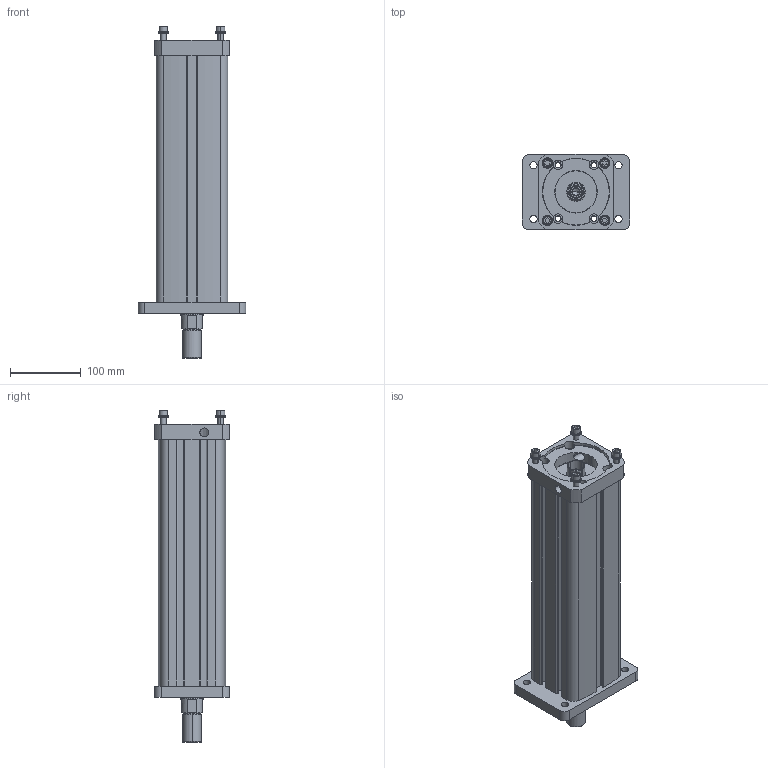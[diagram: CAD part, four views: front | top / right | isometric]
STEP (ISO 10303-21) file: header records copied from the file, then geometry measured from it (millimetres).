
FILE_DESCRIPTION (( 'STEP AP203' ), '1' );
FILE_NAME ('I40-06xx-FA-ISC-xx4.STEP', '2011-03-28T19:47:41', ( 'Exlar' ), ( 'Exlar' ), 'SwSTEP 2.0', 'SolidWorks 2010', '' );
FILE_SCHEMA (( 'CONFIG_CONTROL_DESIGN' ));
Length unit declared in the file: inch
Products named in the file (15): 12424; 14682; 28301; I40-06xx-FA-ISC-xx4; 27513; 27518; 27524; 28143; 28230_Default<As Machined>; 28538; 28734_28734; 28179; 27636; 27521; 28803
Assembly tree (21 placements, depth 3):
  I40-06xx-FA-ISC-xx4
    14682  x4
    28734_28734
    12424  x4
    27636
    28803
      28230_Default<As Machined>
      28538
      27521
    27518  x2
    27524
    28301
    28143
    28179
    27513
Bounding box: 152.4 x 106.43 x 470.67 mm (x, y, z)
Volume: 2487059.7 mm3; surface area: 599128.9 mm2
Topology: 18 solids, 44 shells, 826 faces, 2002 edges, 1230 vertices
Faces by surface type: cylinder 351, plane 224, bspline 96, torus 93, cone 58, sphere 4
Entity records: 21934 total; most frequent: CARTESIAN_POINT 5039, DIRECTION 3425, ORIENTED_EDGE 2988, EDGE_CURVE 1494, AXIS2_PLACEMENT_3D 1398, VERTEX_POINT 962, CIRCLE 796, EDGE_LOOP 736
